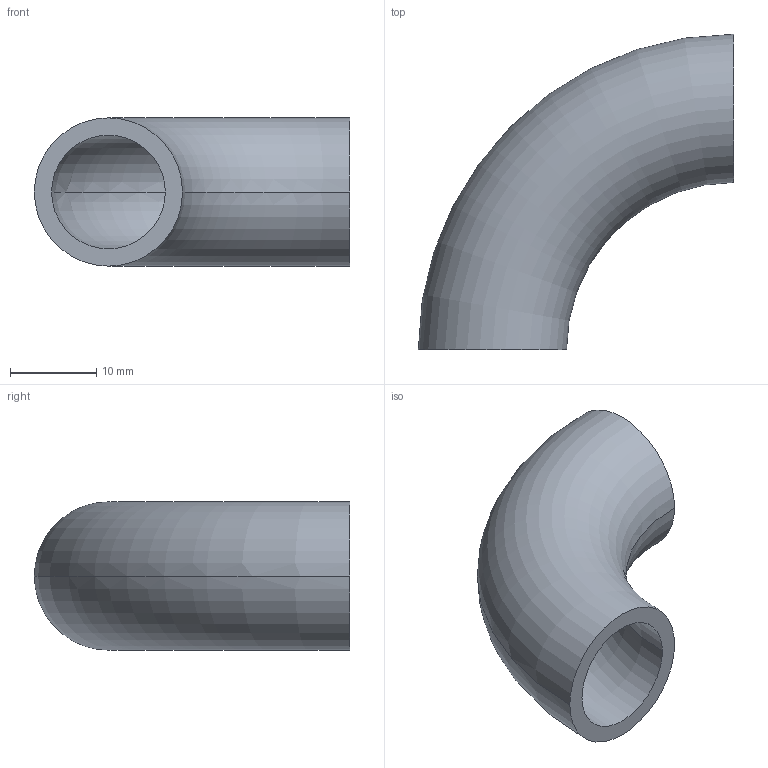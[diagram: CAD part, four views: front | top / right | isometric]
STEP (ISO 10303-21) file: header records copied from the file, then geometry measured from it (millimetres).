
FILE_DESCRIPTION (( 'STEP AP203' ), '1' );
FILE_NAME ('OT200-10-17_2x2_OSTP.step', '2020-12-16T02:09:19', ( '' ), ( '' ), 'SwSTEP 2.0', 'SolidWorks 2014', '' );
FILE_SCHEMA (( 'CONFIG_CONTROL_DESIGN' ));
Length unit declared in the file: millimetre
Products named in the file (1): OT200-10-17_2x2_OSTP
Bounding box: 36.6 x 36.6 x 17.2 mm (x, y, z)
Volume: 4200.5 mm3; surface area: 4391.5 mm2
Topology: 1 solids, 1 shells, 6 faces, 12 edges, 8 vertices
Faces by surface type: torus 4, plane 2
Entity records: 249 total; most frequent: DIRECTION 38, CARTESIAN_POINT 27, ORIENTED_EDGE 24, AXIS2_PLACEMENT_3D 19, CIRCLE 12, EDGE_CURVE 12, EDGE_LOOP 8, PERSON_AND_ORGANIZATION 8
